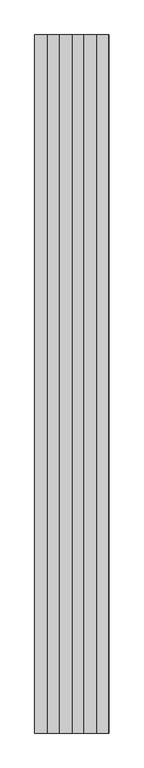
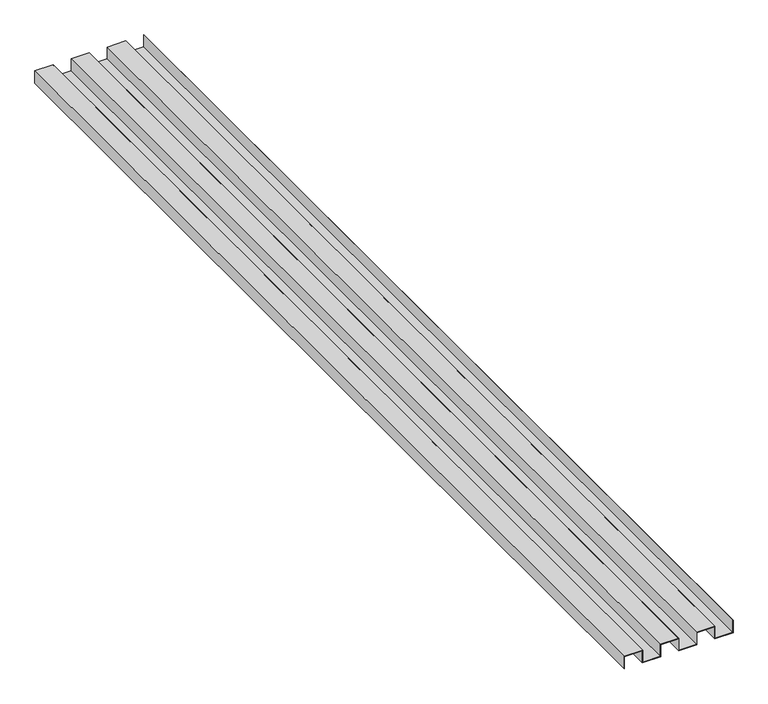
"""IFC4 building model written with IfcOpenShell, lengths in millimetres: proxy geometry, AQUAPLAST - Lamel elewacyjny : Lamel elewacyjny."""

from ifc_helpers import new_model, si_unit, frame, origin, place, context, project, spatial, polyline, outline, extrude, source, transform, mapped, element, save


def specialty_equipment_518246cd(model_context):
    return source(origin(), model_context, "Body", "SweptSolid", [
        extrude(outline(polyline([(0.0, 158.4), (38.0, 158.4), (38.0, 157.6), (0.8, 157.6), (0.8, 105.1), (38.0, 105.1), (38.0, 51.0), (0.8, 51.0), (0.8, -1.2), (38.0, -1.2), (38.0, -55.3), (0.8, -55.3), (0.8, -107.5), (38.0, -107.5), (38.0, -161.6), (0.0, -161.6), (0.0, -160.8), (37.2, -160.8), (37.2, -108.3), (0.0, -108.3), (0.0, -54.5), (37.2, -54.5), (37.2, -2.0), (0.0, -2.0), (0.0, 51.8), (37.2, 51.8), (37.2, 104.3), (0.0, 104.3), (0.0, 158.4)])), frame((0.0, 0.0, 0.0), z_axis=(0.0, 1.0, 0.0), x_axis=(0.0, 0.0, 1.0)), (0.0, 0.0, 1.0), 3000.0),
    ])


if __name__ == "__main__":
    model = new_model("IFC4")
    model_context = context("Model", 3, world=origin())
    ifc_project = project(units=[si_unit("LENGTHUNIT", "METRE", prefix="MILLI")], contexts=[model_context])
    site = spatial("IfcSite", under=ifc_project)
    building = spatial("IfcBuilding", under=site)
    placement = place(None, origin())
    specialty_equipment_shape = specialty_equipment_518246cd(model_context)
    element("IfcBuildingElementProxy", 1, Name="AQUAPLAST - Lamel elewacyjny : Lamel elewacyjny", ObjectType="AQUAPLAST - Lamel elewacyjny : Lamel elewacyjny", at=placement, inside=building, context=model_context, shape_type="MappedRepresentation", body=[
        mapped(specialty_equipment_shape, transform((0.0, 0.0, 0.0), x_axis=(1.0, 0.0, 0.0), y_axis=(0.0, 1.0, 0.0), z_axis=(0.0, 0.0, 1.0))),
    ])
    save(model, "model.ifc")
